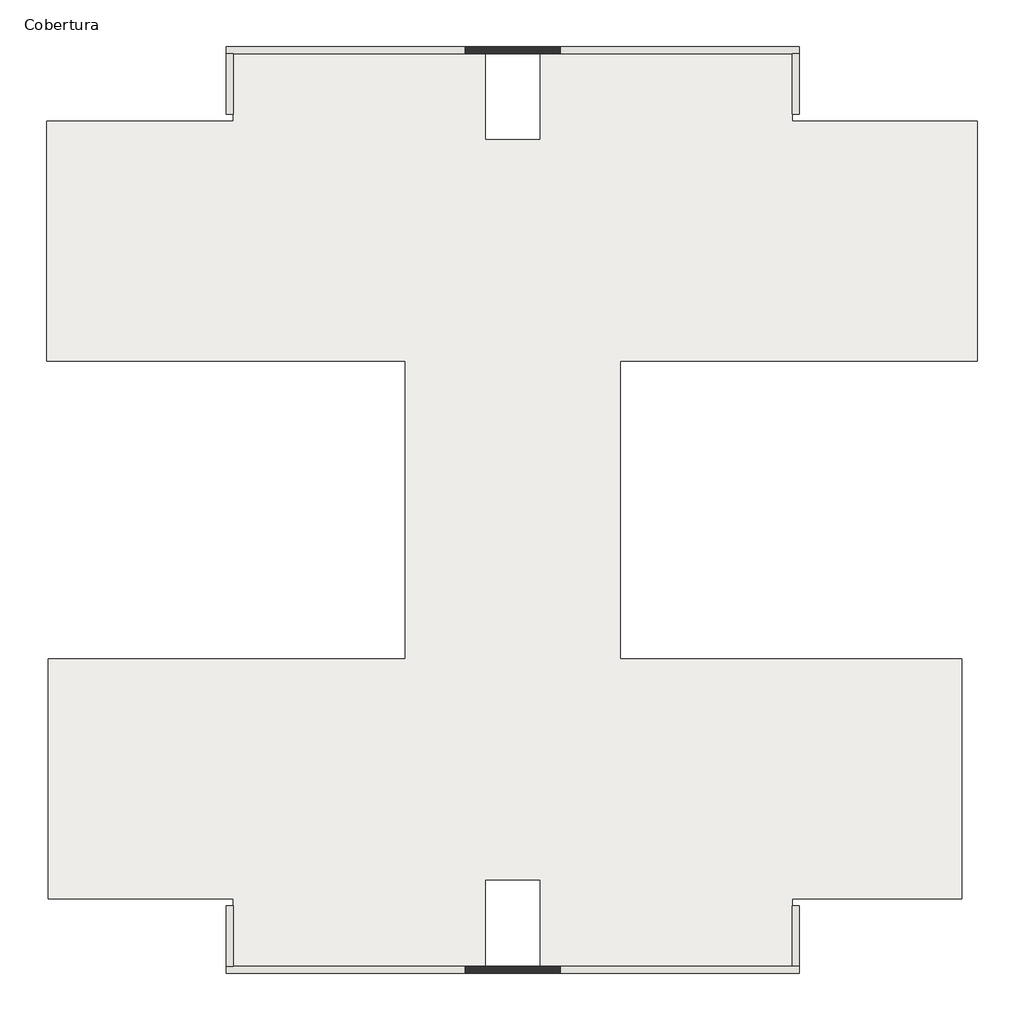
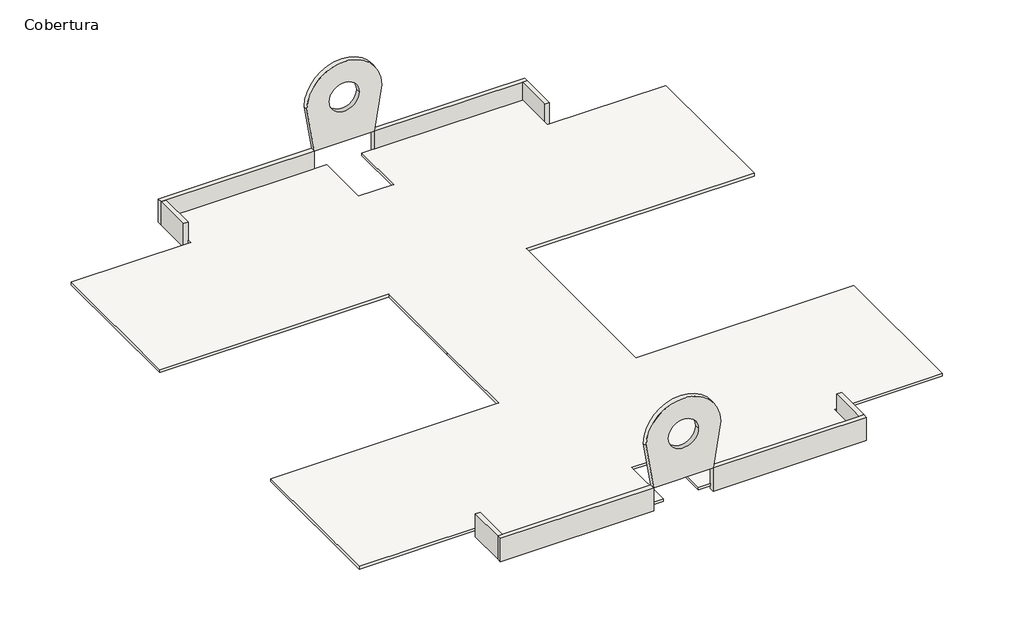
# One storey: 10 walls, 1 slab.
"""IFC4 building model written with IfcOpenShell, lengths in millimetres."""

import ifcopenshell
import ifcopenshell.guid

model = None  # the IFC model being written
_history = None  # IfcOwnerHistory: only IFC2X3 demands one
_inside = {}  # id of a spatial element -> (the spatial element, [elements in it])
_under = {}  # id of a project, library or spatial element -> (it, [spatial elements below it])
_declared = {}  # id of a project -> (the project, [libraries it declares])
_typed = {}  # id of a type object -> (the type object, [elements of that type])
_made_of = {}  # id of a material, layer set ... -> (it, [elements and type objects made of it])


def new_model(schema):
    """Start an empty IFC model of exactly this schema.

    Asked for "IFC4X3", IfcOpenShell would pick the latest addendum, in which some entities
    have other attributes; the version numbers below select the first issue.
    IFC2X3 requires an IfcOwnerHistory on every rooted entity: one is made here for all.
    """
    global model, _history
    if schema == "IFC4X3":
        model = ifcopenshell.file(schema_version=(4, 3, 0, 0))
    else:
        model = ifcopenshell.file(schema=schema)
    _inside.clear()
    _under.clear()
    _declared.clear()
    _typed.clear()
    _made_of.clear()
    _history = None
    if model.schema == "IFC2X3":
        org = make("IfcOrganization", Name="unknown")
        user = make(
            "IfcPersonAndOrganization",
            ThePerson=make("IfcPerson", FamilyName="unknown"),
            TheOrganization=org,
        )
        app = make(
            "IfcApplication",
            ApplicationDeveloper=org,
            Version="unknown",
            ApplicationFullName="unknown",
            ApplicationIdentifier="unknown",
        )
        _history = make(
            "IfcOwnerHistory",
            OwningUser=user,
            OwningApplication=app,
            ChangeAction="ADDED",
            CreationDate=0,
        )
    return model


def make(cls, **values):
    """One entity of the class cls with the attributes given. An attribute that is None is left unset."""
    return model.create_entity(
        cls, **{name: value for name, value in values.items() if value is not None}
    )


def rooted(cls, **values):
    """An entity with a GlobalId (a new one), such as an element, a storey or a relation."""
    return make(cls, GlobalId=ifcopenshell.guid.new(), OwnerHistory=_history, **values)


def si_unit(unit_type, name, prefix=None):
    """IfcSIUnit, for example si_unit("LENGTHUNIT", "METRE", prefix="MILLI")."""
    return make("IfcSIUnit", UnitType=unit_type, Prefix=prefix, Name=name)


def assignment(units):
    """IfcUnitAssignment: the units of a project."""
    return None if units is None else make("IfcUnitAssignment", Units=units)


def point(xyz):
    """IfcCartesianPoint."""
    return None if xyz is None else make("IfcCartesianPoint", Coordinates=xyz)


def direction(xyz):
    """IfcDirection."""
    return None if xyz is None else make("IfcDirection", DirectionRatios=xyz)


def frame(location, z_axis=None, x_axis=None):
    """IfcAxis2Placement3D, a coordinate frame: its origin and axes. An axis left out is left unset."""
    return make(
        "IfcAxis2Placement3D",
        Location=point(location),
        Axis=direction(z_axis),
        RefDirection=direction(x_axis),
    )


def frame_2d(location, x_axis=None):
    """IfcAxis2Placement2D, a coordinate frame in the plane: its origin and x axis."""
    return make(
        "IfcAxis2Placement2D", Location=point(location), RefDirection=direction(x_axis)
    )


def origin():
    """The frame at (0, 0, 0) with its axes left unset."""
    return frame((0.0, 0.0, 0.0))


def place(relative_to, where):
    """IfcLocalPlacement: puts the frame where relative to a parent placement (None: the world)."""
    return make(
        "IfcLocalPlacement", PlacementRelTo=relative_to, RelativePlacement=where
    )


def context(
    kind, dimensions, precision=None, world=None, true_north=None, identifier=None
):
    """IfcGeometricRepresentationContext, for example the 3D "Model" context."""
    return make(
        "IfcGeometricRepresentationContext",
        ContextIdentifier=identifier,
        ContextType=kind,
        CoordinateSpaceDimension=dimensions,
        Precision=precision,
        WorldCoordinateSystem=world,
        TrueNorth=true_north,
    )


def project(units=None, contexts=None):
    """IfcProject with its units and contexts."""
    return rooted(
        "IfcProject",
        Name="project",
        RepresentationContexts=contexts,
        UnitsInContext=assignment(units),
    )


def spatial(cls, under=None, at=None, **own):
    """A site, building, storey or space (cls), placed at a placement, below another one or the project."""
    s = rooted(cls, ObjectPlacement=at, **own)
    if under is not None:
        _under.setdefault(under.id(), (under, []))[1].append(s)
    return s


def polyline(points):
    """IfcPolyline through the points."""
    return make("IfcPolyline", Points=[point(p) for p in points])


def circle_curve(where, radius):
    """IfcCircle in the frame where."""
    return make("IfcCircle", Position=where, Radius=radius)


def trimmed(basis, trim1, trim2, sense, master):
    """IfcTrimmedCurve: the piece of a basis curve between two trims."""
    return make(
        "IfcTrimmedCurve",
        BasisCurve=basis,
        Trim1=trim1,
        Trim2=trim2,
        SenseAgreement=sense,
        MasterRepresentation=master,
    )


def segment(curve, same_sense, transition):
    """IfcCompositeCurveSegment."""
    return make(
        "IfcCompositeCurveSegment",
        Transition=transition,
        SameSense=same_sense,
        ParentCurve=curve,
    )


def composite_curve(segments, self_intersect=None):
    """IfcCompositeCurve: segments joined end to end."""
    return make("IfcCompositeCurve", Segments=segments, SelfIntersect=self_intersect)


def outline(outer, holes=None, kind="AREA"):
    """IfcArbitraryClosedProfileDef: a profile drawn as a closed curve; with holes, ...WithVoids."""
    if holes is None:
        return make("IfcArbitraryClosedProfileDef", ProfileType=kind, OuterCurve=outer)
    return make(
        "IfcArbitraryProfileDefWithVoids",
        ProfileType=kind,
        OuterCurve=outer,
        InnerCurves=holes,
    )


def extrude(swept, where, along, depth):
    """IfcExtrudedAreaSolid: the profile swept, set in the frame where, extruded along a direction by depth."""
    return make(
        "IfcExtrudedAreaSolid",
        SweptArea=swept,
        Position=where,
        ExtrudedDirection=direction(along),
        Depth=depth,
    )


def faces_of(points, faces, orient=None, outer=None):
    """IfcFace entities. A face is a list of loops; a loop is a list of indices into points, from 0.

    orient and outer hold one flag for each loop. By default every Orientation is true, the
    first loop of a face is its IfcFaceOuterBound and the others are IfcFaceBound.
    """
    made = []
    for i, loops in enumerate(faces):
        bounds = []
        for j, loop in enumerate(loops):
            is_outer = j == 0 if outer is None else outer[i][j]
            bounds.append(
                make(
                    "IfcFaceOuterBound" if is_outer else "IfcFaceBound",
                    Bound=make("IfcPolyLoop", Polygon=[points[k] for k in loop]),
                    Orientation=True if orient is None else orient[i][j],
                )
            )
        made.append(make("IfcFace", Bounds=bounds))
    return made


def faceted_brep(points, faces, orient=None, outer=None, voids=None):
    """IfcFacetedBrep: a solid bounded by flat faces; with voids (closed shells), ...WithVoids."""
    shared = [point(p) for p in points]
    hull = make("IfcClosedShell", CfsFaces=faces_of(shared, faces, orient, outer))
    if voids is None:
        return make("IfcFacetedBrep", Outer=hull)
    return make(
        "IfcFacetedBrepWithVoids",
        Outer=hull,
        Voids=[
            make(cls, CfsFaces=faces_of(shared, fs, o, b)) for cls, fs, o, b in voids
        ],
    )


def shape(context_of_items, identifier, shape_type, items):
    """IfcShapeRepresentation: the items that make up one representation, for example the "Body"."""
    return make(
        "IfcShapeRepresentation",
        ContextOfItems=context_of_items,
        RepresentationIdentifier=identifier,
        RepresentationType=shape_type,
        Items=items,
    )


def made_of(thing, what):
    """Note that an element or type object is made of a material, layer set ...; save() writes the relation."""
    if what is not None:
        _made_of.setdefault(what.id(), (what, []))[1].append(thing)
    return thing


def element(
    cls,
    number,
    at=None,
    inside=None,
    cuts=None,
    type_object=None,
    material=None,
    context=None,
    identifier="Body",
    shape_type=None,
    held_by="IfcProductDefinitionShape",
    body=None,
    shapes=None,
    **own,
):
    """One element of the class cls, such as IfcWall. Its Tag is "e" and its number.

    at: its placement. inside: the storey or other place that contains it. cuts: it is an
    opening in that element (IfcRelVoidsElement). A single representation is given by context,
    identifier, shape_type and body (its items); several are given by shapes. held_by: the class
    of the entity that holds the representations. save() writes the other relations.
    """
    e = rooted(cls, Tag="e%d" % number, ObjectPlacement=at, **own)
    if body is not None:
        shapes = [shape(context, identifier, shape_type, body)]
    if shapes is not None:
        e.Representation = make(held_by, Representations=shapes)
    if inside is not None:
        _inside.setdefault(inside.id(), (inside, []))[1].append(e)
    if cuts is not None:
        rooted(
            "IfcRelVoidsElement", RelatingBuildingElement=cuts, RelatedOpeningElement=e
        )
    if type_object is not None:
        _typed.setdefault(type_object.id(), (type_object, []))[1].append(e)
    return made_of(e, material)


def aggregate(whole, parts):
    """IfcRelAggregates: a whole, such as a stair, and the parts it consists of."""
    return rooted("IfcRelAggregates", RelatingObject=whole, RelatedObjects=parts)


def save(model, path):
    """Write the relations noted so far, then the file.

    IfcRelAggregates (storeys below a building ...), IfcRelContainedInSpatialStructure (elements
    in a storey), IfcRelDefinesByType, IfcRelAssociatesMaterial and IfcRelDeclares: one each for
    every whole, place, type object, material and project.
    """
    for whole, parts in _under.values():
        aggregate(whole, parts)
    for where, things in _inside.values():
        rooted(
            "IfcRelContainedInSpatialStructure",
            RelatedElements=things,
            RelatingStructure=where,
        )
    for kind, things in _typed.values():
        rooted("IfcRelDefinesByType", RelatedObjects=things, RelatingType=kind)
    for what, things in _made_of.values():
        rooted("IfcRelAssociatesMaterial", RelatedObjects=things, RelatingMaterial=what)
    for by, libraries in _declared.values():
        rooted("IfcRelDeclares", RelatingContext=by, RelatedDefinitions=libraries)
    model.write(path)


model = new_model("IFC4")

# Units and contexts
model_context = context("Model", 3, world=origin())
ifc_project = project(units=[si_unit("LENGTHUNIT", "METRE", prefix="MILLI")], contexts=[model_context])

# Site, building, storey
site = spatial("IfcSite", under=ifc_project)
building = spatial("IfcBuilding", under=site)
storey = spatial("IfcBuildingStorey", under=building, Name="Cobertura", Elevation=15000.0)

# Slab
placement = place(None, origin())
element("IfcSlab", 1, ObjectType="Genérico 150 mm", at=placement, inside=storey, context=model_context, shape_type="Brep", body=[
    faceted_brep([(-4676.2265742, -4286.3385375, 14850.0), (-4676.2265742, 441.9155274, 14850.0), (-4676.2265742, 5833.6614625, 14850.0), (-16866.2265742, 5833.6614625, 14850.0), (-16866.2265742, 13983.6614625, 14850.0), (-10516.2265742, 13983.6614625, 14850.0), (-10516.2265742, 14233.6614625, 14850.0), (-10516.2265742, 16278.6614625, 14850.0), (-1961.2265742, 16278.6614625, 14850.0), (-1961.2265742, 13353.6614625, 14850.0), (-91.2265742, 13353.6614625, 14850.0), (-91.2265742, 16278.6614625, 14850.0), (8463.7734258, 16278.6614625, 14850.0), (8463.7734258, 14233.6614625, 14850.0), (8463.7734258, 13983.6614625, 14850.0), (14763.7734258, 13983.6614625, 14850.0), (14763.7734258, 5833.6614625, 14850.0), (2623.7734258, 5833.6614625, 14850.0), (2623.7734258, 1608.5085309, 14850.0), (2623.7734258, -4286.3385375, 14850.0), (14223.269929, -4286.3385375, 14850.0), (14223.269929, -12436.3385375, 14850.0), (8463.7734258, -12436.3385375, 14850.0), (8463.7734258, -12686.3385375, 14850.0), (8463.7734258, -14731.3385375, 14850.0), (-91.2265742, -14731.3385375, 14850.0), (-91.2265742, -11806.3385375, 14850.0), (-1961.2265742, -11806.3385375, 14850.0), (-1961.2265742, -14731.3385375, 14850.0), (-10516.2265742, -14731.3385375, 14850.0), (-10516.2265742, -12686.3385375, 14850.0), (-10516.2265742, -12436.3385375, 14850.0), (-16816.2265742, -12436.3385375, 14850.0), (-16816.2265742, -4286.3385375, 14850.0), (-4676.2265742, -4286.3385375, 15000.0), (-16816.2265742, -4286.3385375, 15000.0), (-16816.2265742, -12436.3385375, 15000.0), (-10516.2265742, -12436.3385375, 15000.0), (-10516.2265742, -12686.3385375, 15000.0), (-10516.2265742, -14731.3385375, 15000.0), (-1961.2265742, -14731.3385375, 15000.0), (-1961.2265742, -11806.3385375, 15000.0), (-91.2265742, -11806.3385375, 15000.0), (-91.2265742, -14731.3385375, 15000.0), (8463.7734258, -14731.3385375, 15000.0), (8463.7734258, -12686.3385375, 15000.0), (8463.7734258, -12436.3385375, 15000.0), (14223.269929, -12436.3385375, 15000.0), (14223.269929, -4286.3385375, 15000.0), (2623.7734258, -4286.3385375, 15000.0), (2623.7734258, 1608.5085309, 15000.0), (2623.7734258, 5833.6614625, 15000.0), (14763.7734258, 5833.6614625, 15000.0), (14763.7734258, 13983.6614625, 15000.0), (8463.7734258, 13983.6614625, 15000.0), (8463.7734258, 14233.6614625, 15000.0), (8463.7734258, 16278.6614625, 15000.0), (-91.2265742, 16278.6614625, 15000.0), (-91.2265742, 13353.6614625, 15000.0), (-1961.2265742, 13353.6614625, 15000.0), (-1961.2265742, 16278.6614625, 15000.0), (-10516.2265742, 16278.6614625, 15000.0), (-10516.2265742, 14233.6614625, 15000.0), (-10516.2265742, 13983.6614625, 15000.0), (-16866.2265742, 13983.6614625, 15000.0), (-16866.2265742, 5833.6614625, 15000.0), (-4676.2265742, 5833.6614625, 15000.0), (-4676.2265742, 441.9155274, 15000.0)], [[[0, 1, 2, 3, 4, 5, 6, 7, 8, 9, 10, 11, 12, 13, 14, 15, 16, 17, 18, 19, 20, 21, 22, 23, 24, 25, 26, 27, 28, 29, 30, 31, 32, 33]], [[34, 35, 36, 37, 38, 39, 40, 41, 42, 43, 44, 45, 46, 47, 48, 49, 50, 51, 52, 53, 54, 55, 56, 57, 58, 59, 60, 61, 62, 63, 64, 65, 66, 67]], [[1, 0, 34, 67]], [[2, 1, 67, 66]], [[3, 2, 66, 65]], [[4, 3, 65, 64]], [[5, 4, 64, 63]], [[7, 6, 5, 63, 62, 61]], [[8, 7, 61, 60]], [[9, 8, 60, 59]], [[10, 9, 59, 58]], [[11, 10, 58, 57]], [[12, 11, 57, 56]], [[14, 13, 12, 56, 55, 54]], [[15, 14, 54, 53]], [[16, 15, 53, 52]], [[17, 16, 52, 51]], [[18, 17, 51, 50]], [[19, 18, 50, 49]], [[20, 19, 49, 48]], [[21, 20, 48, 47]], [[22, 21, 47, 46]], [[24, 23, 22, 46, 45, 44]], [[25, 24, 44, 43]], [[26, 25, 43, 42]], [[27, 26, 42, 41]], [[28, 27, 41, 40]], [[29, 28, 40, 39]], [[31, 30, 29, 39, 38, 37]], [[32, 31, 37, 36]], [[33, 32, 36, 35]], [[0, 33, 35, 34]]]),
])

# Walls
element("IfcWall", 2, ObjectType="Exeterna 25", at=placement, inside=storey, context=model_context, shape_type="Brep", body=[
    faceted_brep([(558.7734258, -14981.3385375, 14700.0), (8713.7734258, -14981.3385375, 14700.0), (8713.7734258, -14981.3385375, 16000.0), (558.7734258, -14981.3385375, 16000.0), (558.7734258, -14731.3385375, 14700.0), (558.7734258, -14731.3385375, 16000.0), (8463.7734258, -14731.3385375, 16000.0), (8713.7734258, -14731.3385375, 16000.0), (8713.7734258, -14731.3385375, 14700.0), (8463.7734258, -14731.3385375, 14700.0)], [[[0, 1, 2, 3]], [[4, 5, 6, 7, 8, 9]], [[1, 0, 4, 9, 8]], [[3, 2, 7, 6, 5]], [[0, 3, 5, 4]], [[2, 1, 8, 7]]]),
])
element("IfcWall", 3, ObjectType="Exeterna 25", at=placement, inside=storey, context=model_context, shape_type="Brep", body=[
    faceted_brep([(8713.7734258, -14731.3385375, 14700.0), (8713.7734258, -12686.3385375, 14700.0), (8713.7734258, -12686.3385375, 16000.0), (8713.7734258, -14731.3385375, 16000.0), (8463.7734258, -12686.3385375, 14700.0), (8463.7734258, -14731.3385375, 14700.0), (8463.7734258, -14731.3385375, 14850.0), (8463.7734258, -14731.3385375, 15000.0), (8463.7734258, -14731.3385375, 16000.0), (8463.7734258, -12686.3385375, 16000.0), (8463.7734258, -12686.3385375, 15000.0), (8463.7734258, -12686.3385375, 14850.0)], [[[0, 1, 2, 3]], [[4, 5, 6, 7, 8, 9, 10, 11]], [[1, 0, 5, 4]], [[3, 2, 9, 8]], [[0, 3, 8, 7, 6, 5]], [[2, 1, 4, 11, 10, 9]]]),
])
element("IfcWall", 4, ObjectType="Exeterna 25", at=placement, inside=storey, context=model_context, shape_type="Brep", body=[
    faceted_brep([(-2611.2265742, -14731.3385375, 14700.0), (-10516.2265742, -14731.3385375, 14700.0), (-10766.2265742, -14731.3385375, 14700.0), (-10766.2265742, -14731.3385375, 16000.0), (-10516.2265742, -14731.3385375, 16000.0), (-2611.2265742, -14731.3385375, 16000.0), (-2611.2265742, -14981.3385375, 14700.0), (-2611.2265742, -14981.3385375, 16000.0), (-10766.2265742, -14981.3385375, 16000.0), (-10766.2265742, -14981.3385375, 14700.0)], [[[0, 1, 2, 3, 4, 5]], [[6, 7, 8, 9]], [[2, 1, 0, 6, 9]], [[5, 4, 3, 8, 7]], [[0, 5, 7, 6]], [[3, 2, 9, 8]]]),
])
element("IfcWall", 5, ObjectType="Exeterna 25", at=placement, inside=storey, context=model_context, shape_type="Brep", body=[
    faceted_brep([(-10516.2265742, -14731.3385375, 14700.0), (-10516.2265742, -12686.3385375, 14700.0), (-10516.2265742, -12686.3385375, 14850.0), (-10516.2265742, -12686.3385375, 15000.0), (-10516.2265742, -12686.3385375, 16000.0), (-10516.2265742, -14731.3385375, 16000.0), (-10516.2265742, -14731.3385375, 15000.0), (-10516.2265742, -14731.3385375, 14850.0), (-10766.2265742, -12686.3385375, 14700.0), (-10766.2265742, -14731.3385375, 14700.0), (-10766.2265742, -14731.3385375, 16000.0), (-10766.2265742, -12686.3385375, 16000.0)], [[[0, 1, 2, 3, 4, 5, 6, 7]], [[8, 9, 10, 11]], [[1, 0, 9, 8]], [[5, 4, 11, 10]], [[5, 10, 9, 0, 7, 6]], [[1, 8, 11, 4, 3, 2]]]),
])
element("IfcWall", 6, ObjectType="Exeterna 25", at=placement, inside=storey, context=model_context, shape_type="Brep", body=[
    faceted_brep([(558.7734258, 16278.6614625, 14700.0), (8463.7734258, 16278.6614625, 14700.0), (8713.7734258, 16278.6614625, 14700.0), (8713.7734258, 16278.6614625, 16000.0), (8463.7734258, 16278.6614625, 16000.0), (558.7734258, 16278.6614625, 16000.0), (558.7734258, 16528.6614625, 14700.0), (558.7734258, 16528.6614625, 16000.0), (8713.7734258, 16528.6614625, 16000.0), (8713.7734258, 16528.6614625, 14700.0)], [[[0, 1, 2, 3, 4, 5]], [[6, 7, 8, 9]], [[2, 1, 0, 6, 9]], [[5, 4, 3, 8, 7]], [[0, 5, 7, 6]], [[3, 2, 9, 8]]]),
])
element("IfcWall", 7, ObjectType="Exeterna 25", at=placement, inside=storey, context=model_context, shape_type="Brep", body=[
    faceted_brep([(8463.7734258, 16278.6614625, 14700.0), (8463.7734258, 14233.6614625, 14700.0), (8463.7734258, 14233.6614625, 14850.0), (8463.7734258, 14233.6614625, 15000.0), (8463.7734258, 14233.6614625, 16000.0), (8463.7734258, 16278.6614625, 16000.0), (8713.7734258, 16278.6614625, 14700.0), (8713.7734258, 16278.6614625, 16000.0), (8713.7734258, 14233.6614625, 16000.0), (8713.7734258, 14233.6614625, 14700.0)], [[[0, 1, 2, 3, 4, 5]], [[6, 7, 8, 9]], [[1, 0, 6, 9]], [[5, 4, 8, 7]], [[0, 5, 7, 6]], [[4, 3, 2, 1, 9, 8]]]),
])
element("IfcWall", 8, ObjectType="Exeterna 25", at=placement, inside=storey, context=model_context, shape_type="Brep", body=[
    faceted_brep([(-2611.2265742, 16528.6614625, 14700.0), (-10766.2265742, 16528.6614625, 14700.0), (-10766.2265742, 16528.6614625, 16000.0), (-2611.2265742, 16528.6614625, 16000.0), (-2611.2265742, 16278.6614625, 14700.0), (-2611.2265742, 16278.6614625, 16000.0), (-10516.2265742, 16278.6614625, 16000.0), (-10766.2265742, 16278.6614625, 16000.0), (-10766.2265742, 16278.6614625, 14700.0), (-10516.2265742, 16278.6614625, 14700.0)], [[[0, 1, 2, 3]], [[4, 5, 6, 7, 8, 9]], [[1, 0, 4, 9, 8]], [[3, 2, 7, 6, 5]], [[0, 3, 5, 4]], [[2, 1, 8, 7]]]),
])
element("IfcWall", 9, ObjectType="Exeterna 25", at=placement, inside=storey, context=model_context, shape_type="Brep", body=[
    faceted_brep([(-10766.2265742, 16278.6614625, 14700.0), (-10766.2265742, 14233.6614625, 14700.0), (-10766.2265742, 14233.6614625, 16000.0), (-10766.2265742, 16278.6614625, 16000.0), (-10516.2265742, 16278.6614625, 14700.0), (-10516.2265742, 16278.6614625, 16000.0), (-10516.2265742, 14233.6614625, 16000.0), (-10516.2265742, 14233.6614625, 15000.0), (-10516.2265742, 14233.6614625, 14850.0), (-10516.2265742, 14233.6614625, 14700.0)], [[[0, 1, 2, 3]], [[4, 5, 6, 7, 8, 9]], [[1, 0, 4, 9]], [[3, 2, 6, 5]], [[0, 3, 5, 4]], [[2, 1, 9, 8, 7, 6]]]),
])
element("IfcWall", 10, ObjectType="Exeterna 25", at=placement, inside=storey, context=model_context, shape_type="SweptSolid", body=[
    extrude(outline(composite_curve([segment(polyline([(16000.0, -2611.2265742), (16000.0, 558.7734258), (18500.0, 958.7734258)]), True, "CONTINUOUS"), segment(trimmed(circle_curve(frame_2d((18500.0, -1026.2265742)), 1985.0), [point((18500.0, 958.7734258))], [point((18500.0, -3011.2265742))], False, "CARTESIAN"), True, "CONTINUOUS"), segment(polyline([(18500.0, -3011.2265742), (16000.0, -2611.2265742)]), True, "CONTINUOUS")], self_intersect=False), holes=[composite_curve([segment(trimmed(circle_curve(frame_2d((18500.0, -1026.2265742)), 800.0), [point((18500.0, -226.2265742))], [point((18500.0, -1826.2265742))], True, "CARTESIAN"), True, "CONTINUOUS"), segment(trimmed(circle_curve(frame_2d((18500.0, -1026.2265742)), 800.0), [point((18500.0, -1826.2265742))], [point((18500.0, -226.2265742))], True, "CARTESIAN"), True, "CONTINUOUS")], self_intersect=False)]), frame((0.0, -14981.3385375, 0.0), z_axis=(0.0, 1.0, 0.0), x_axis=(0.0, 0.0, 1.0)), (0.0, 0.0, 1.0), 250.0),
])
element("IfcWall", 11, ObjectType="Exeterna 25", at=placement, inside=storey, context=model_context, shape_type="SweptSolid", body=[
    extrude(outline(composite_curve([segment(polyline([(16000.0, -2611.2265742), (16000.0, 558.7734258), (18500.0, 958.7734258)]), True, "CONTINUOUS"), segment(trimmed(circle_curve(frame_2d((18500.0, -1026.2265742)), 1985.0), [point((18500.0, 958.7734258))], [point((18500.0, -3011.2265742))], False, "CARTESIAN"), True, "CONTINUOUS"), segment(polyline([(18500.0, -3011.2265742), (16000.0, -2611.2265742)]), True, "CONTINUOUS")], self_intersect=False), holes=[composite_curve([segment(trimmed(circle_curve(frame_2d((18500.0, -1026.2265742)), 800.0), [point((18500.0, -226.2265742))], [point((18500.0, -1826.2265742))], True, "CARTESIAN"), True, "CONTINUOUS"), segment(trimmed(circle_curve(frame_2d((18500.0, -1026.2265742)), 800.0), [point((18500.0, -1826.2265742))], [point((18500.0, -226.2265742))], True, "CARTESIAN"), True, "CONTINUOUS")], self_intersect=False)]), frame((0.0, 16278.6614625, 0.0), z_axis=(0.0, 1.0, 0.0), x_axis=(0.0, 0.0, 1.0)), (0.0, 0.0, 1.0), 250.0),
])

save(model, "model.ifc")
